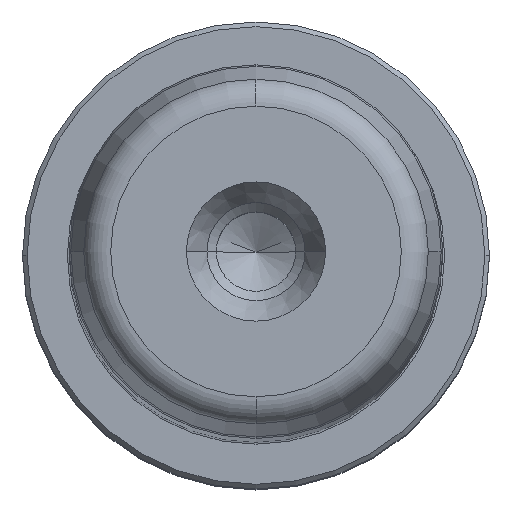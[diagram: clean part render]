
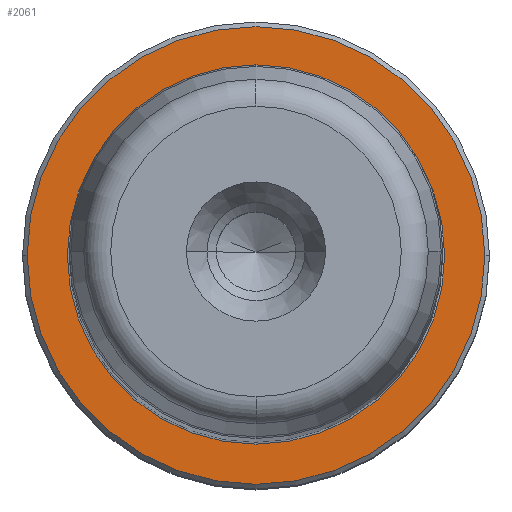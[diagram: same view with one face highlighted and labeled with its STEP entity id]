
A CAD part, top view. The second image highlights one B-rep face of the part: STEP entity #2061.
In plain terms, the highlighted planar face has unit normal (0, 0, 1).
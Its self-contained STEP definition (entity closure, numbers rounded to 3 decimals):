
#898=CARTESIAN_POINT('',(0.0,-20.2,5.));
#899=VERTEX_POINT('',#898);
#907=CARTESIAN_POINT('',(20.2,0.,5.0));
#908=VERTEX_POINT('',#907);
#909=CARTESIAN_POINT('',(0.0,0.,5.0));
#910=DIRECTION('',(0.0,0.0,1.0));
#911=DIRECTION('',(1.0,0.0,0.0));
#912=AXIS2_PLACEMENT_3D('',#909,#910,#911);
#913=CIRCLE('',#912,20.2);
#914=EDGE_CURVE('',#899,#908,#913,.T.);
#916=CARTESIAN_POINT('',(0.,20.2,5.));
#917=VERTEX_POINT('',#916);
#918=CARTESIAN_POINT('',(0.0,0.,5.0));
#919=DIRECTION('',(0.0,0.0,1.0));
#920=DIRECTION('',(1.0,0.0,0.0));
#921=AXIS2_PLACEMENT_3D('',#918,#919,#920);
#922=CIRCLE('',#921,20.2);
#923=EDGE_CURVE('',#908,#917,#922,.T.);
#950=CARTESIAN_POINT('',(24.5,0.,5.0));
#951=VERTEX_POINT('',#950);
#960=CARTESIAN_POINT('',(-24.5,0.,5.));
#961=VERTEX_POINT('',#960);
#962=CARTESIAN_POINT('',(0.0,0.,5.0));
#963=DIRECTION('',(0.0,0.0,1.0));
#964=DIRECTION('',(1.0,0.0,0.0));
#965=AXIS2_PLACEMENT_3D('',#962,#963,#964);
#966=CIRCLE('',#965,24.5);
#967=EDGE_CURVE('',#961,#951,#966,.T.);
#2031=CARTESIAN_POINT('',(0.0,0.,5.0));
#2032=DIRECTION('',(0.0,0.0,1.0));
#2033=DIRECTION('',(1.0,0.0,0.0));
#2034=AXIS2_PLACEMENT_3D('',#2031,#2032,#2033);
#2035=CIRCLE('',#2034,24.5);
#2036=EDGE_CURVE('',#951,#961,#2035,.T.);
#2041=CARTESIAN_POINT('',(22.35,0.,5.0));
#2042=DIRECTION('',(0.0,0.0,1.0));
#2043=DIRECTION('',(0.0,-1.0,0.0));
#2044=AXIS2_PLACEMENT_3D('',#2041,#2042,#2043);
#2045=PLANE('',#2044);
#2046=ORIENTED_EDGE('',*,*,#2036,.T.);
#2047=ORIENTED_EDGE('',*,*,#967,.T.);
#2048=EDGE_LOOP('',(#2046,#2047));
#2049=FACE_OUTER_BOUND('',#2048,.T.);
#2050=ORIENTED_EDGE('',*,*,#923,.F.);
#2051=ORIENTED_EDGE('',*,*,#914,.F.);
#2052=CARTESIAN_POINT('',(0.0,0.,5.0));
#2053=DIRECTION('',(0.0,0.0,1.0));
#2054=DIRECTION('',(1.0,0.0,0.0));
#2055=AXIS2_PLACEMENT_3D('',#2052,#2053,#2054);
#2056=CIRCLE('',#2055,20.2);
#2057=EDGE_CURVE('',#917,#899,#2056,.T.);
#2058=ORIENTED_EDGE('',*,*,#2057,.F.);
#2059=EDGE_LOOP('',(#2050,#2051,#2058));
#2060=FACE_BOUND('',#2059,.T.);
#2061=ADVANCED_FACE('',(#2049,#2060),#2045,.T.);
